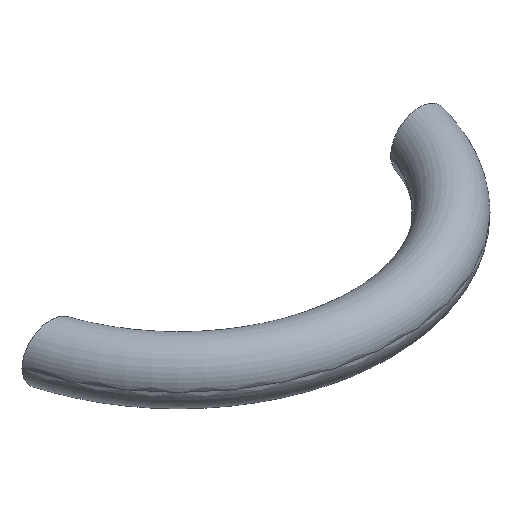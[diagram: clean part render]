
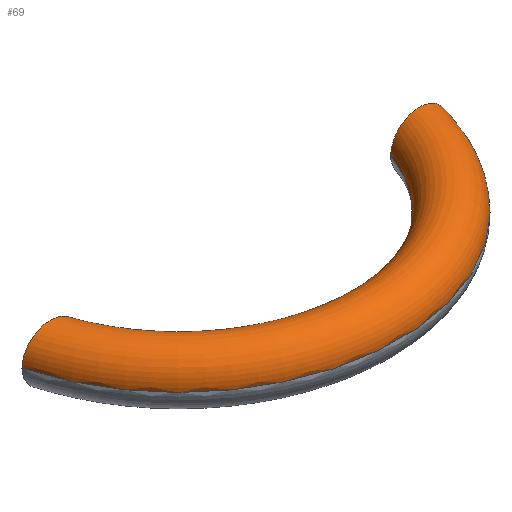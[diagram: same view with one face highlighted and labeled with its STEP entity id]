
A CAD part, isometric view. The second image highlights one B-rep face of the part: STEP entity #69.
In plain terms, the highlighted toroidal (fillet/blend) face has major radius 35.35 mm and minor radius 5 mm.
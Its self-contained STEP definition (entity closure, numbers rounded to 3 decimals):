
#67 = EDGE_CURVE( '', #81, #139, #166, .T. );
#69 = ADVANCED_FACE( '', ( #168 ), #169, .T. );
#81 = VERTEX_POINT( '', #182 );
#113 = EDGE_CURVE( '', #125, #139, #219, .T. );
#117 = EDGE_CURVE( '', #125, #141, #223, .T. );
#125 = VERTEX_POINT( '', #231 );
#129 = EDGE_CURVE( '', #81, #141, #235, .T. );
#139 = VERTEX_POINT( '', #249 );
#141 = VERTEX_POINT( '', #251 );
#166 = B_SPLINE_CURVE_WITH_KNOTS( '', 3, ( #267, #268, #269, #270, #271, #272, #273, #274, #275, #276, #277, #278, #279, #280, #281, #282, #283, #284, #285, #286, #287, #288, #289, #290, #291, #292, #293, #294, #295, #296, #297, #298, #299, #300 ), .UNSPECIFIED., .F., .F., ( 4, 2, 2, 2, 2, 2, 2, 2, 2, 2, 2, 2, 2, 2, 2, 2, 4 ), ( 15.157, 16.066, 16.975, 17.913, 18.852, 19.82, 20.788, 21.773, 22.758, 23.737, 24.716, 25.67, 26.624, 27.554, 28.485, 29.4, 30.314 ), .UNSPECIFIED. );
#168 = FACE_OUTER_BOUND( '', #302, .T. );
#169 = TOROIDAL_SURFACE( '', #303, 35.35, 5. );
#182 = CARTESIAN_POINT( '', ( 3.469, 0., 0. ) );
#219 = CIRCLE( '', #433, 40.35 );
#223 = B_SPLINE_CURVE_WITH_KNOTS( '', 3, ( #438, #439, #440, #441, #442, #443, #444, #445, #446, #447, #448, #449, #450, #451, #452, #453, #454, #455, #456, #457, #458, #459, #460, #461, #462, #463, #464, #465, #466, #467, #468, #469, #470, #471 ), .UNSPECIFIED., .F., .F., ( 4, 2, 2, 2, 2, 2, 2, 2, 2, 2, 2, 2, 2, 2, 2, 2, 4 ), ( 0., 0.915, 1.829, 2.76, 3.691, 4.644, 5.598, 6.577, 7.556, 8.541, 9.526, 10.495, 11.463, 12.401, 13.339, 14.248, 15.157 ), .UNSPECIFIED. );
#231 = CARTESIAN_POINT( '', ( 71., 0., 0. ) );
#235 = CIRCLE( '', #485, 30.35 );
#249 = CARTESIAN_POINT( '', ( -7., 0., 0. ) );
#251 = CARTESIAN_POINT( '', ( 60.531, 0., 0. ) );
#267 = CARTESIAN_POINT( '', ( 3.469, 0., 0. ) );
#268 = CARTESIAN_POINT( '', ( 3.469, 0., 0.303 ) );
#269 = CARTESIAN_POINT( '', ( 3.438, 0., 0.634 ) );
#270 = CARTESIAN_POINT( '', ( 3.304, 0., 1.28 ) );
#271 = CARTESIAN_POINT( '', ( 3.201, 0., 1.596 ) );
#272 = CARTESIAN_POINT( '', ( 2.958, 0., 2.162 ) );
#273 = CARTESIAN_POINT( '', ( 2.794, 0., 2.463 ) );
#274 = CARTESIAN_POINT( '', ( 2.404, 0., 3.023 ) );
#275 = CARTESIAN_POINT( '', ( 2.18, 0., 3.282 ) );
#276 = CARTESIAN_POINT( '', ( 1.722, 0., 3.723 ) );
#277 = CARTESIAN_POINT( '', ( 1.446, 0., 3.945 ) );
#278 = CARTESIAN_POINT( '', ( 0.855, 0., 4.326 ) );
#279 = CARTESIAN_POINT( '', ( 0.539, 0., 4.486 ) );
#280 = CARTESIAN_POINT( '', ( -0.066, 0., 4.728 ) );
#281 = CARTESIAN_POINT( '', ( -0.41, 0., 4.833 ) );
#282 = CARTESIAN_POINT( '', ( -1.114, 0., 4.968 ) );
#283 = CARTESIAN_POINT( '', ( -1.473, 0., 5. ) );
#284 = CARTESIAN_POINT( '', ( -2.127, 0., 5. ) );
#285 = CARTESIAN_POINT( '', ( -2.484, 0., 4.969 ) );
#286 = CARTESIAN_POINT( '', ( -3.183, 0., 4.834 ) );
#287 = CARTESIAN_POINT( '', ( -3.525, 0., 4.73 ) );
#288 = CARTESIAN_POINT( '', ( -4.122, 0., 4.488 ) );
#289 = CARTESIAN_POINT( '', ( -4.433, 0., 4.329 ) );
#290 = CARTESIAN_POINT( '', ( -5.013, 0., 3.951 ) );
#291 = CARTESIAN_POINT( '', ( -5.284, 0., 3.731 ) );
#292 = CARTESIAN_POINT( '', ( -5.733, 0., 3.291 ) );
#293 = CARTESIAN_POINT( '', ( -5.954, 0., 3.033 ) );
#294 = CARTESIAN_POINT( '', ( -6.335, 0., 2.474 ) );
#295 = CARTESIAN_POINT( '', ( -6.496, 0., 2.174 ) );
#296 = CARTESIAN_POINT( '', ( -6.735, 0., 1.608 ) );
#297 = CARTESIAN_POINT( '', ( -6.837, 0., 1.289 ) );
#298 = CARTESIAN_POINT( '', ( -6.969, 0., 0.638 ) );
#299 = CARTESIAN_POINT( '', ( -7., 0., 0.305 ) );
#300 = CARTESIAN_POINT( '', ( -7., 0., 0. ) );
#302 = EDGE_LOOP( '', ( #517, #518, #519, #520 ) );
#303 = AXIS2_PLACEMENT_3D( '', #521, #522, #523 );
#433 = AXIS2_PLACEMENT_3D( '', #586, #587, #588 );
#438 = CARTESIAN_POINT( '', ( 71., 0., 0. ) );
#439 = CARTESIAN_POINT( '', ( 71., 0., 0.305 ) );
#440 = CARTESIAN_POINT( '', ( 70.969, 0., 0.638 ) );
#441 = CARTESIAN_POINT( '', ( 70.837, 0., 1.289 ) );
#442 = CARTESIAN_POINT( '', ( 70.735, 0., 1.608 ) );
#443 = CARTESIAN_POINT( '', ( 70.496, 0., 2.174 ) );
#444 = CARTESIAN_POINT( '', ( 70.335, 0., 2.474 ) );
#445 = CARTESIAN_POINT( '', ( 69.954, 0., 3.033 ) );
#446 = CARTESIAN_POINT( '', ( 69.733, 0., 3.291 ) );
#447 = CARTESIAN_POINT( '', ( 69.284, 0., 3.731 ) );
#448 = CARTESIAN_POINT( '', ( 69.013, 0., 3.951 ) );
#449 = CARTESIAN_POINT( '', ( 68.433, 0., 4.329 ) );
#450 = CARTESIAN_POINT( '', ( 68.122, 0., 4.488 ) );
#451 = CARTESIAN_POINT( '', ( 67.525, 0., 4.73 ) );
#452 = CARTESIAN_POINT( '', ( 67.183, 0., 4.834 ) );
#453 = CARTESIAN_POINT( '', ( 66.484, 0., 4.969 ) );
#454 = CARTESIAN_POINT( '', ( 66.127, 0., 5. ) );
#455 = CARTESIAN_POINT( '', ( 65.473, 0., 5. ) );
#456 = CARTESIAN_POINT( '', ( 65.114, 0., 4.968 ) );
#457 = CARTESIAN_POINT( '', ( 64.41, 0., 4.833 ) );
#458 = CARTESIAN_POINT( '', ( 64.066, 0., 4.728 ) );
#459 = CARTESIAN_POINT( '', ( 63.461, 0., 4.486 ) );
#460 = CARTESIAN_POINT( '', ( 63.145, 0., 4.326 ) );
#461 = CARTESIAN_POINT( '', ( 62.554, 0., 3.945 ) );
#462 = CARTESIAN_POINT( '', ( 62.278, 0., 3.723 ) );
#463 = CARTESIAN_POINT( '', ( 61.82, 0., 3.282 ) );
#464 = CARTESIAN_POINT( '', ( 61.596, 0., 3.023 ) );
#465 = CARTESIAN_POINT( '', ( 61.206, 0., 2.463 ) );
#466 = CARTESIAN_POINT( '', ( 61.042, 0., 2.162 ) );
#467 = CARTESIAN_POINT( '', ( 60.799, 0., 1.596 ) );
#468 = CARTESIAN_POINT( '', ( 60.696, 0., 1.28 ) );
#469 = CARTESIAN_POINT( '', ( 60.562, 0., 0.634 ) );
#470 = CARTESIAN_POINT( '', ( 60.531, 0., 0.303 ) );
#471 = CARTESIAN_POINT( '', ( 60.531, 0., 0. ) );
#485 = AXIS2_PLACEMENT_3D( '', #592, #593, #594 );
#517 = ORIENTED_EDGE( '', *, *, #113, .F. );
#518 = ORIENTED_EDGE( '', *, *, #117, .T. );
#519 = ORIENTED_EDGE( '', *, *, #129, .F. );
#520 = ORIENTED_EDGE( '', *, *, #67, .T. );
#521 = CARTESIAN_POINT( '', ( 32., 10.35, 0. ) );
#522 = DIRECTION( '', ( 0., 0., -1. ) );
#523 = DIRECTION( '', ( -1., 0., 0. ) );
#586 = CARTESIAN_POINT( '', ( 32., 10.35, 0. ) );
#587 = DIRECTION( '', ( 0., 0., -1. ) );
#588 = DIRECTION( '', ( -1., 0., 0. ) );
#592 = CARTESIAN_POINT( '', ( 32., 10.35, 0. ) );
#593 = DIRECTION( '', ( 0., 0., 1. ) );
#594 = DIRECTION( '', ( -1., 0., 0. ) );
